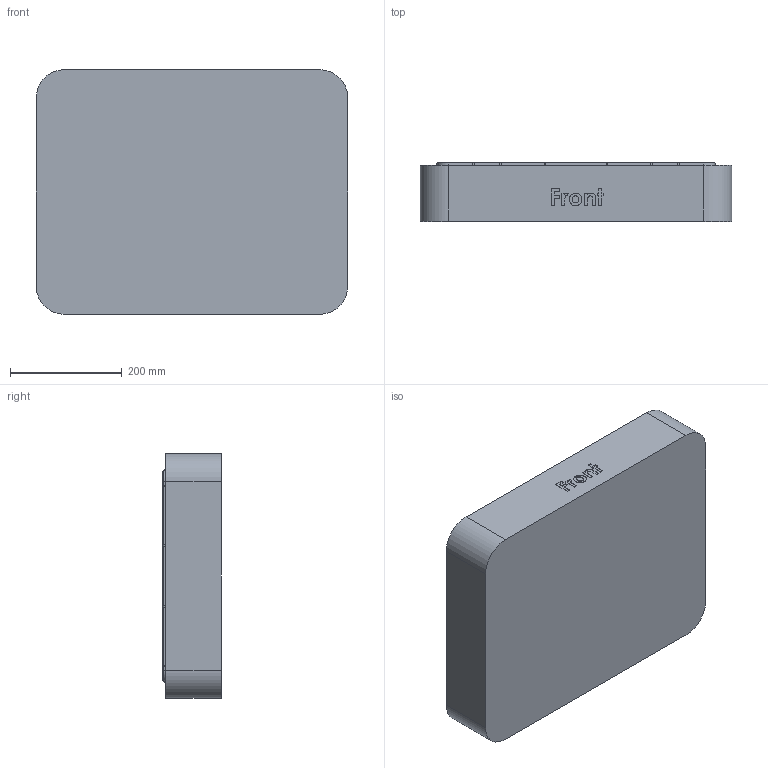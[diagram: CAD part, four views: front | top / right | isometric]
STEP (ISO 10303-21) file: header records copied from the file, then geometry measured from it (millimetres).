
FILE_DESCRIPTION (( 'STEP AP203' ), '1' );
FILE_NAME ('bottom inside type 6040.STEP', '2018-10-29T15:11:43', ( '' ), ( '' ), 'SwSTEP 2.0', 'SolidWorks 2018', '' );
FILE_SCHEMA (( 'CONFIG_CONTROL_DESIGN' ));
Length unit declared in the file: millimetre
Products named in the file (1): bottom inside type 6040
Bounding box: 558.6 x 105.4 x 438.6 mm (x, y, z)
Volume: 10659562.4 mm3; surface area: 819686.6 mm2
Topology: 1 solids, 1 shells, 425 faces, 1198 edges, 788 vertices
Faces by surface type: plane 322, bspline 59, cylinder 26, cone 18
Entity records: 17959 total; most frequent: CARTESIAN_POINT 7429, ORIENTED_EDGE 2396, DIRECTION 1812, EDGE_CURVE 1198, LINE 976, VECTOR 976, VERTEX_POINT 788, EDGE_LOOP 438
